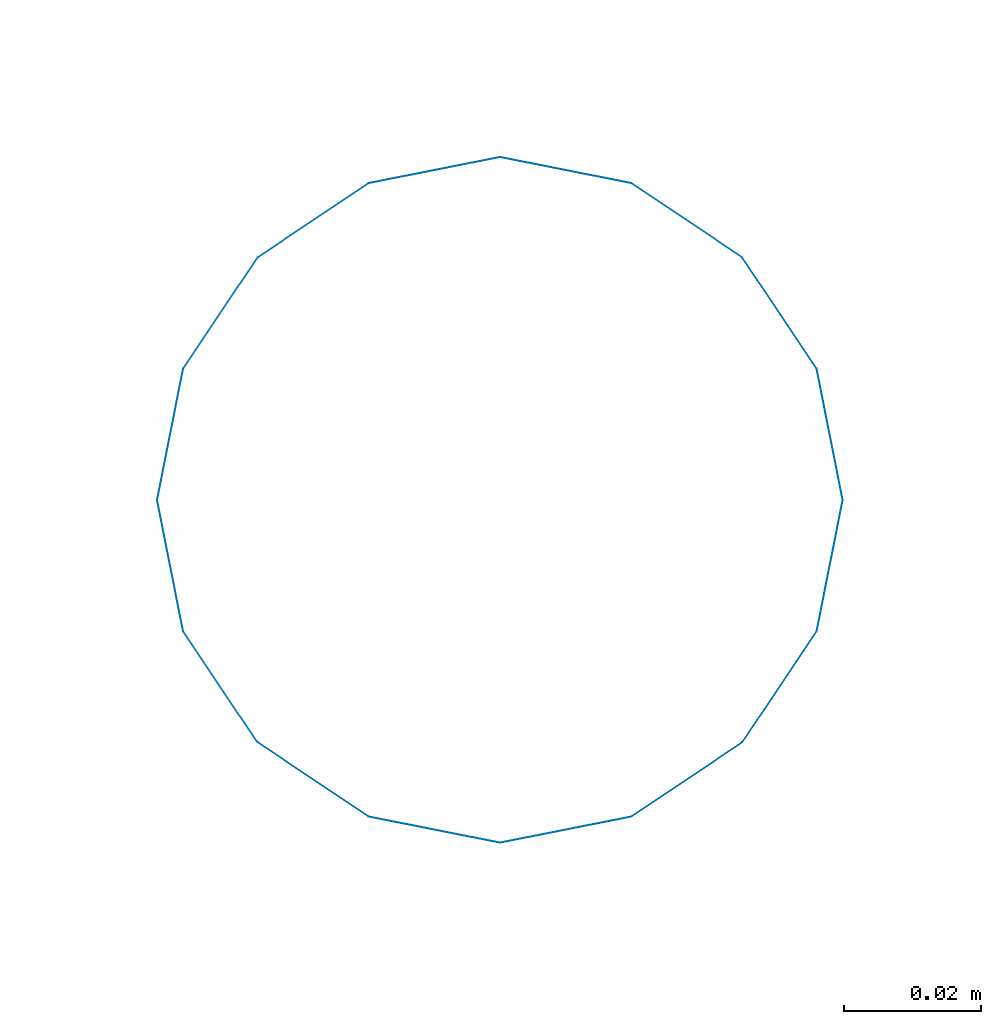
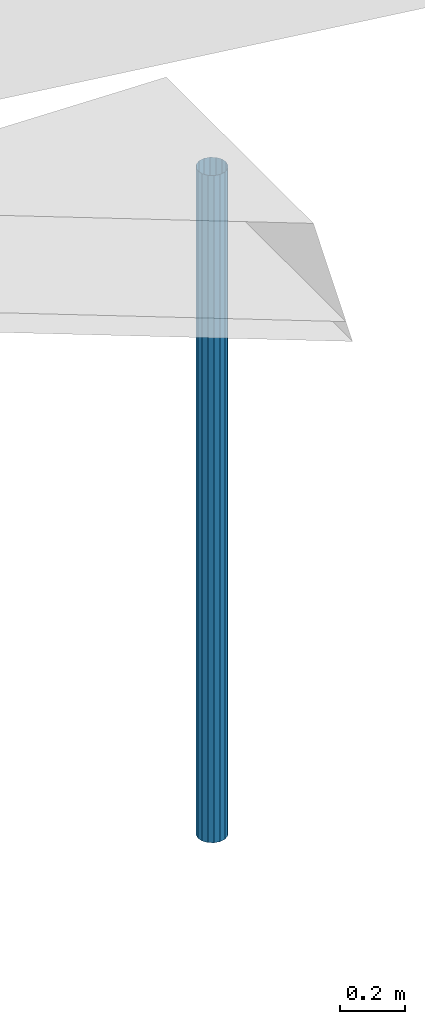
# One storey, part 91 of 153: 1 discrete accessory.
"""IFC2X3 building model written with IfcOpenShell, lengths in millimetres."""

from ifc_helpers import new_model, entity, si_unit, converted_unit, derived_unit, money_unit, direction, frame, origin_with_axes, place, context, subcontext, project, spatial, open_shell, surface_model, type_object, element, save


model = new_model("IFC2X3")

# Units and contexts
model_context = context("Model", 3, precision=0.01, world=origin_with_axes(), true_north=direction((0.0, 1.0)))
body_context = subcontext(model_context, "Body", "Model", "MODEL_VIEW")
ifc_project = project(units=[si_unit("LENGTHUNIT", "METRE", prefix="MILLI"), si_unit("AREAUNIT", "SQUARE_METRE"), si_unit("VOLUMEUNIT", "CUBIC_METRE"), converted_unit("PLANEANGLEUNIT", "DEGREE", entity("IfcPlaneAngleMeasure", 0.0174532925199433), si_unit("PLANEANGLEUNIT", "RADIAN"), dimensions=[0, 0, 0, 0, 0, 0, 0]), money_unit("EUR"), converted_unit("TIMEUNIT", "Year", entity("IfcTimeMeasure", 31557600.0), si_unit("TIMEUNIT", "SECOND"), dimensions=[0, 0, 1, 0, 0, 0, 0]), si_unit("MASSUNIT", "GRAM", prefix="KILO"), si_unit("THERMODYNAMICTEMPERATUREUNIT", "DEGREE_CELSIUS"), si_unit("LUMINOUSINTENSITYUNIT", "LUMEN"), si_unit("ENERGYUNIT", "JOULE", prefix="MEGA"), derived_unit("THERMALCONDUCTANCEUNIT", [(si_unit("POWERUNIT", "WATT"), 1), (si_unit("LENGTHUNIT", "METRE"), -1), (si_unit("THERMODYNAMICTEMPERATUREUNIT", "KELVIN"), -1)]), derived_unit("SPECIFICHEATCAPACITYUNIT", [(si_unit("ENERGYUNIT", "JOULE"), 1), (si_unit("MASSUNIT", "GRAM", prefix="KILO"), -1), (si_unit("THERMODYNAMICTEMPERATUREUNIT", "KELVIN"), -1)]), derived_unit("MASSDENSITYUNIT", [(si_unit("MASSUNIT", "GRAM", prefix="KILO"), 1), (si_unit("VOLUMEUNIT", "CUBIC_METRE"), -1)])], contexts=[model_context])

# Site, building, storey
site_placement = place(None, frame((0.0, 0.0, 8650.0), z_axis=(0.0, 0.0, 1.0), x_axis=(1.0, 0.0, 0.0)))
site = spatial("IfcSite", under=ifc_project, at=site_placement, Name="43301:001:0844", CompositionType="ELEMENT")
building_placement = place(site_placement, origin_with_axes())
building = spatial("IfcBuilding", under=site, at=building_placement, Name="Kuressaare Ametikooli tuulikute mehaanikute õppekorpus", CompositionType="ELEMENT")
storey_placement = place(building_placement, frame((0.0, 0.0, 4100.0), z_axis=(0.0, 0.0, 1.0), x_axis=(1.0, 0.0, 0.0)))
storey = spatial("IfcBuildingStorey", under=building, at=storey_placement, Name="2.korrus", CompositionType="ELEMENT", Elevation=4100.0)

# Discrete accessory
discrete_accessory_type = type_object("IfcDiscreteAccessoryType", Name="Downspout Complex 27")
discrete_accessory_placement = place(storey_placement, frame((130584.3378530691, 31819.56390376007, -3966.646428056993), z_axis=(0.0, 0.0, 1.0), x_axis=(-1.0, 0.0, 0.0)))
element("IfcDiscreteAccessory", 1, at=discrete_accessory_placement, inside=storey, type_object=discrete_accessory_type, Name="SV püstik", context=body_context, shape_type="SurfaceModel", body=[
    surface_model("IfcShellBasedSurfaceModel", [(-50.0, 0.0, 2511.64635686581), (-50.0, 0.0, 0.0), (-46.19397662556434, -19.13417161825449, 0.0), (-46.19397662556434, -19.13417161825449, 2511.64635686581), (-46.19397662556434, 19.13417161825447, 2511.64635686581), (-46.19397662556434, 19.13417161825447, 0.0), (-35.35533905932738, -35.35533905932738, 0.0), (-35.35533905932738, -35.35533905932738, 2511.64635686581), (-35.35533905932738, 35.35533905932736, 2511.64635686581), (-35.35533905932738, 35.35533905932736, 0.0), (-19.13417161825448, -46.19397662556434, 0.0), (-19.13417161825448, -46.19397662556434, 2511.64635686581), (-19.13417161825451, 46.19397662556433, 2511.64635686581), (-19.13417161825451, 46.19397662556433, 0.0), (0.0, -50.0, 0.0), (0.0, -50.0, 2511.64635686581), (0.0, 50.0, 2511.64635686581), (0.0, 50.0, 0.0), (19.13417161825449, -46.19397662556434, 0.0), (19.13417161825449, -46.19397662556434, 2511.64635686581), (19.13417161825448, 46.19397662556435, 2511.64635686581), (19.13417161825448, 46.19397662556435, 0.0), (35.35533905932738, -35.35533905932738, 0.0), (35.35533905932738, -35.35533905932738, 2511.64635686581), (35.35533905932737, 35.35533905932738, 2511.64635686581), (35.35533905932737, 35.35533905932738, 0.0), (46.19397662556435, -19.13417161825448, 0.0), (46.19397662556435, -19.13417161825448, 2511.64635686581), (46.19397662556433, 19.1341716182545, 2511.64635686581), (46.19397662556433, 19.1341716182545, 0.0), (50.0, 0.0, 0.0), (50.0, 0.0, 2511.64635686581)], [open_shell([[[0, 1, 2, 3]], [[4, 5, 1, 0]], [[3, 2, 6, 7]], [[8, 9, 5, 4]], [[7, 6, 10, 11]], [[12, 13, 9, 8]], [[11, 10, 14, 15]], [[16, 17, 13, 12]], [[15, 14, 18, 19]], [[20, 21, 17, 16]], [[19, 18, 22, 23]], [[24, 25, 21, 20]], [[23, 22, 26, 27]], [[28, 29, 25, 24]], [[27, 26, 30, 31]], [[31, 30, 29, 28]]])]),
])

save(model, "model.ifc")
